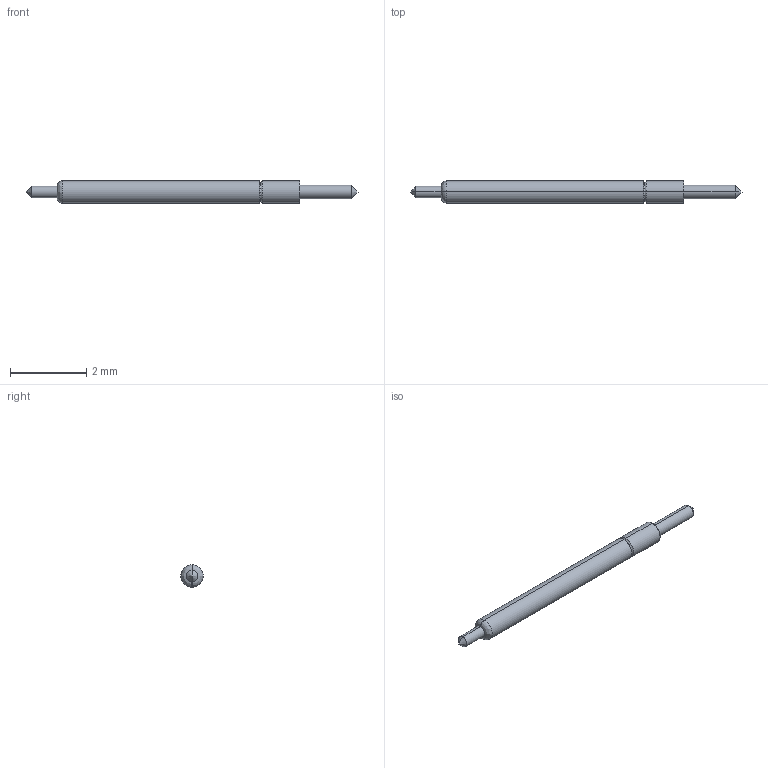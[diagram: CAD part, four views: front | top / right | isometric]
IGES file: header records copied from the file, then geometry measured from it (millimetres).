
Start section: SolidWorks IGES file using analytic representation for surfaces
Global section: file name: Z:\probe solid model mockups\Solidworks models\IGES Files\CSP8-25 IGES files\CSP8-25BB.IGS; native system: SolidWorks 2006 by SolidWorks Corporation; preprocessor: SolidWorks 2006 by SolidWorks Corporation; author: tsakatani; date: 080108.153514; units: inch
Bounding box: 8.69 x 0.58 x 0.58 mm (x, y, z)
Surface area: 14.3 mm2 (no closed solid volume)
Topology: 0 solids, 0 shells, 19 faces, 104 edges, 100 vertices
Faces by surface type: revolution 12, bspline 7
